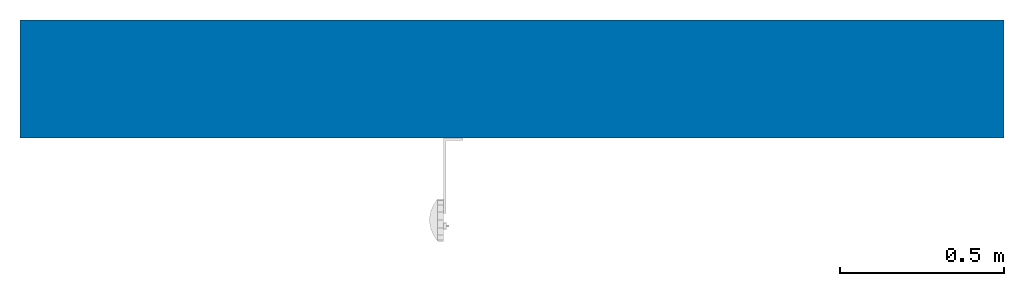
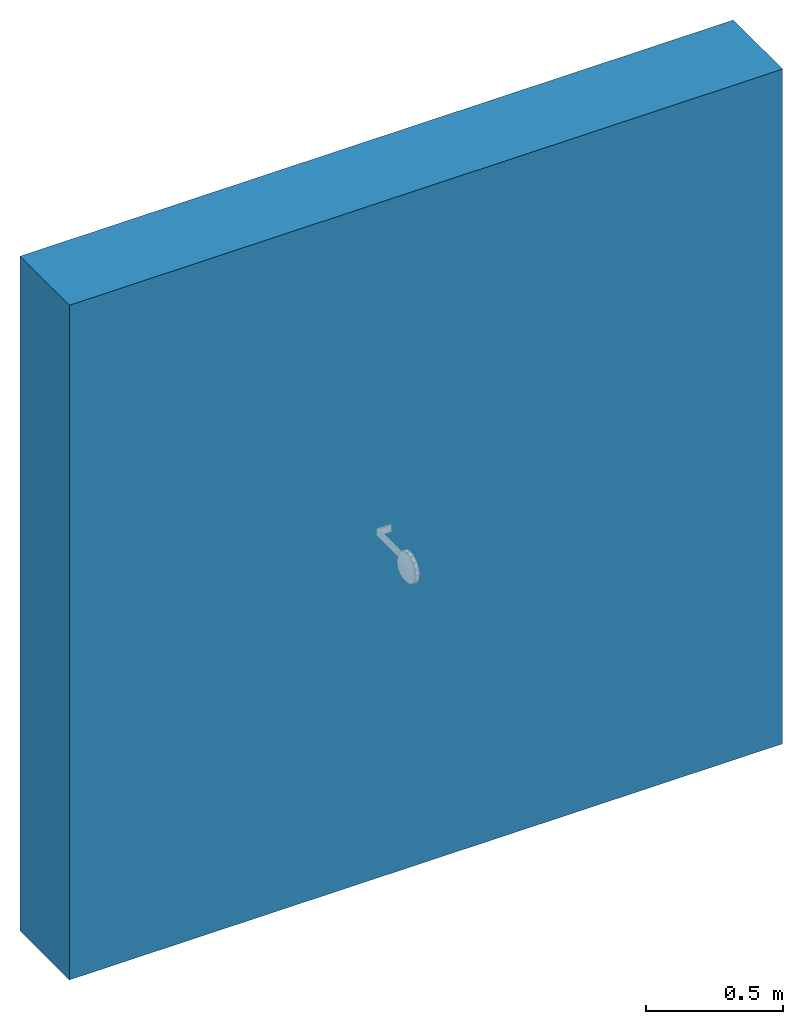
# One storey, incomplete: 1 wall.
"""IFC2X3 building model written with IfcOpenShell, lengths in metres."""

import ifcopenshell
import ifcopenshell.guid

model = None  # the IFC model being written
_history = None  # IfcOwnerHistory: only IFC2X3 demands one
_inside = {}  # id of a spatial element -> (the spatial element, [elements in it])
_under = {}  # id of a project, library or spatial element -> (it, [spatial elements below it])
_declared = {}  # id of a project -> (the project, [libraries it declares])
_typed = {}  # id of a type object -> (the type object, [elements of that type])
_made_of = {}  # id of a material, layer set ... -> (it, [elements and type objects made of it])


def new_model(schema):
    """Start an empty IFC model of exactly this schema.

    Asked for "IFC4X3", IfcOpenShell would pick the latest addendum, in which some entities
    have other attributes; the version numbers below select the first issue.
    IFC2X3 requires an IfcOwnerHistory on every rooted entity: one is made here for all.
    """
    global model, _history
    if schema == "IFC4X3":
        model = ifcopenshell.file(schema_version=(4, 3, 0, 0))
    else:
        model = ifcopenshell.file(schema=schema)
    _inside.clear()
    _under.clear()
    _declared.clear()
    _typed.clear()
    _made_of.clear()
    _history = None
    if model.schema == "IFC2X3":
        org = make("IfcOrganization", Name="unknown")
        user = make(
            "IfcPersonAndOrganization",
            ThePerson=make("IfcPerson", FamilyName="unknown"),
            TheOrganization=org,
        )
        app = make(
            "IfcApplication",
            ApplicationDeveloper=org,
            Version="unknown",
            ApplicationFullName="unknown",
            ApplicationIdentifier="unknown",
        )
        _history = make(
            "IfcOwnerHistory",
            OwningUser=user,
            OwningApplication=app,
            ChangeAction="ADDED",
            CreationDate=0,
        )
    return model


def make(cls, **values):
    """One entity of the class cls with the attributes given. An attribute that is None is left unset."""
    return model.create_entity(
        cls, **{name: value for name, value in values.items() if value is not None}
    )


def entity(cls, *values):
    """Any entity or typed value of the class cls, its attributes in the order of the schema. None: left unset."""
    e = model.create_entity(cls)
    for i, value in enumerate(values):
        if value is not None:
            e[i] = value
    return e


def rooted(cls, **values):
    """An entity with a GlobalId (a new one), such as an element, a storey or a relation."""
    return make(cls, GlobalId=ifcopenshell.guid.new(), OwnerHistory=_history, **values)


def si_unit(unit_type, name, prefix=None):
    """IfcSIUnit, for example si_unit("LENGTHUNIT", "METRE", prefix="MILLI")."""
    return make("IfcSIUnit", UnitType=unit_type, Prefix=prefix, Name=name)


def converted_unit(unit_type, name, factor, base, dimensions=None, offset=None):
    """IfcConversionBasedUnit, such as the inch: factor (a typed value) times the base unit."""
    return make(
        "IfcConversionBasedUnit"
        if offset is None
        else "IfcConversionBasedUnitWithOffset",
        ConversionOffset=offset,
        Dimensions=None
        if dimensions is None
        else entity("IfcDimensionalExponents", *dimensions),
        UnitType=unit_type,
        Name=name,
        ConversionFactor=make(
            "IfcMeasureWithUnit", ValueComponent=factor, UnitComponent=base
        ),
    )


def derived_unit(unit_type, elements):
    """IfcDerivedUnit: a product of units, each with its exponent."""
    return make(
        "IfcDerivedUnit",
        Elements=[
            make("IfcDerivedUnitElement", Unit=unit, Exponent=power)
            for unit, power in elements
        ],
        UnitType=unit_type,
    )


def assignment(units):
    """IfcUnitAssignment: the units of a project."""
    return None if units is None else make("IfcUnitAssignment", Units=units)


def point(xyz):
    """IfcCartesianPoint."""
    return None if xyz is None else make("IfcCartesianPoint", Coordinates=xyz)


def direction(xyz):
    """IfcDirection."""
    return None if xyz is None else make("IfcDirection", DirectionRatios=xyz)


def frame(location, z_axis=None, x_axis=None):
    """IfcAxis2Placement3D, a coordinate frame: its origin and axes. An axis left out is left unset."""
    return make(
        "IfcAxis2Placement3D",
        Location=point(location),
        Axis=direction(z_axis),
        RefDirection=direction(x_axis),
    )


def frame_2d(location, x_axis=None):
    """IfcAxis2Placement2D, a coordinate frame in the plane: its origin and x axis."""
    return make(
        "IfcAxis2Placement2D", Location=point(location), RefDirection=direction(x_axis)
    )


def origin():
    """The frame at (0, 0, 0) with its axes left unset."""
    return frame((0.0, 0.0, 0.0))


def place(relative_to, where):
    """IfcLocalPlacement: puts the frame where relative to a parent placement (None: the world)."""
    return make(
        "IfcLocalPlacement", PlacementRelTo=relative_to, RelativePlacement=where
    )


def context(
    kind, dimensions, precision=None, world=None, true_north=None, identifier=None
):
    """IfcGeometricRepresentationContext, for example the 3D "Model" context."""
    return make(
        "IfcGeometricRepresentationContext",
        ContextIdentifier=identifier,
        ContextType=kind,
        CoordinateSpaceDimension=dimensions,
        Precision=precision,
        WorldCoordinateSystem=world,
        TrueNorth=true_north,
    )


def subcontext(parent, identifier, kind, view, scale=None):
    """IfcGeometricRepresentationSubContext, for example "Body" below "Model"."""
    return make(
        "IfcGeometricRepresentationSubContext",
        ContextIdentifier=identifier,
        ContextType=kind,
        ParentContext=parent,
        TargetScale=scale,
        TargetView=view,
    )


def project(units=None, contexts=None):
    """IfcProject with its units and contexts."""
    return rooted(
        "IfcProject",
        Name="project",
        RepresentationContexts=contexts,
        UnitsInContext=assignment(units),
    )


def spatial(cls, under=None, at=None, **own):
    """A site, building, storey or space (cls), placed at a placement, below another one or the project."""
    s = rooted(cls, ObjectPlacement=at, **own)
    if under is not None:
        _under.setdefault(under.id(), (under, []))[1].append(s)
    return s


def profile(cls, at=None, kind="AREA", **sizes):
    """A parametric profile (cls). Its sizes go by their IFC names, for example OverallWidth=200.0."""
    return make(cls, ProfileType=kind, Position=at, **sizes)


def rectangle(**sizes):
    """IfcRectangleProfileDef."""
    return profile("IfcRectangleProfileDef", **sizes)


def extrude(swept, where, along, depth):
    """IfcExtrudedAreaSolid: the profile swept, set in the frame where, extruded along a direction by depth."""
    return make(
        "IfcExtrudedAreaSolid",
        SweptArea=swept,
        Position=where,
        ExtrudedDirection=direction(along),
        Depth=depth,
    )


def shape(context_of_items, identifier, shape_type, items):
    """IfcShapeRepresentation: the items that make up one representation, for example the "Body"."""
    return make(
        "IfcShapeRepresentation",
        ContextOfItems=context_of_items,
        RepresentationIdentifier=identifier,
        RepresentationType=shape_type,
        Items=items,
    )


def material(Name=None, Category=None):
    """IfcMaterial."""
    return make("IfcMaterial", Name=Name, Category=Category)


def layer(
    of_material, thickness, ventilated=None, Name=None, Category=None, Priority=None
):
    """IfcMaterialLayer: one layer of a wall or slab, of a material (None: an air gap)."""
    return make(
        "IfcMaterialLayer",
        Material=of_material,
        LayerThickness=thickness,
        IsVentilated=ventilated,
        Name=Name,
        Category=Category,
        Priority=Priority,
    )


def layer_set(layers, Name=None):
    """IfcMaterialLayerSet."""
    return make("IfcMaterialLayerSet", MaterialLayers=layers, LayerSetName=Name)


def layer_usage(for_layer_set, set_direction, sense, offset, extent=None):
    """IfcMaterialLayerSetUsage: how a layer set lies in its element."""
    return make(
        "IfcMaterialLayerSetUsage",
        ForLayerSet=for_layer_set,
        LayerSetDirection=set_direction,
        DirectionSense=sense,
        OffsetFromReferenceLine=offset,
        ReferenceExtent=extent,
    )


def made_of(thing, what):
    """Note that an element or type object is made of a material, layer set ...; save() writes the relation."""
    if what is not None:
        _made_of.setdefault(what.id(), (what, []))[1].append(thing)
    return thing


def type_object(cls, material=None, **own):
    """A type object (cls), such as IfcWallType, which elements share."""
    return made_of(rooted(cls, **own), material)


def element(
    cls,
    number,
    at=None,
    inside=None,
    cuts=None,
    type_object=None,
    material=None,
    context=None,
    identifier="Body",
    shape_type=None,
    held_by="IfcProductDefinitionShape",
    body=None,
    shapes=None,
    **own,
):
    """One element of the class cls, such as IfcWall. Its Tag is "e" and its number.

    at: its placement. inside: the storey or other place that contains it. cuts: it is an
    opening in that element (IfcRelVoidsElement). A single representation is given by context,
    identifier, shape_type and body (its items); several are given by shapes. held_by: the class
    of the entity that holds the representations. save() writes the other relations.
    """
    e = rooted(cls, Tag="e%d" % number, ObjectPlacement=at, **own)
    if body is not None:
        shapes = [shape(context, identifier, shape_type, body)]
    if shapes is not None:
        e.Representation = make(held_by, Representations=shapes)
    if inside is not None:
        _inside.setdefault(inside.id(), (inside, []))[1].append(e)
    if cuts is not None:
        rooted(
            "IfcRelVoidsElement", RelatingBuildingElement=cuts, RelatedOpeningElement=e
        )
    if type_object is not None:
        _typed.setdefault(type_object.id(), (type_object, []))[1].append(e)
    return made_of(e, material)


def aggregate(whole, parts):
    """IfcRelAggregates: a whole, such as a stair, and the parts it consists of."""
    return rooted("IfcRelAggregates", RelatingObject=whole, RelatedObjects=parts)


def save(model, path):
    """Write the relations noted so far, then the file.

    IfcRelAggregates (storeys below a building ...), IfcRelContainedInSpatialStructure (elements
    in a storey), IfcRelDefinesByType, IfcRelAssociatesMaterial and IfcRelDeclares: one each for
    every whole, place, type object, material and project.
    """
    for whole, parts in _under.values():
        aggregate(whole, parts)
    for where, things in _inside.values():
        rooted(
            "IfcRelContainedInSpatialStructure",
            RelatedElements=things,
            RelatingStructure=where,
        )
    for kind, things in _typed.values():
        rooted("IfcRelDefinesByType", RelatedObjects=things, RelatingType=kind)
    for what, things in _made_of.values():
        rooted("IfcRelAssociatesMaterial", RelatedObjects=things, RelatingMaterial=what)
    for by, libraries in _declared.values():
        rooted("IfcRelDeclares", RelatingContext=by, RelatedDefinitions=libraries)
    model.write(path)


model = new_model("IFC2X3")

# Units and contexts
model_context = context("Model", 3, precision=1e-05, world=origin(), true_north=direction((6.12303176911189e-17, 1.0)))
body_context = subcontext(model_context, "Body", "Model", "MODEL_VIEW")
ifc_project = project(units=[si_unit("LENGTHUNIT", "METRE"), si_unit("AREAUNIT", "SQUARE_METRE"), si_unit("VOLUMEUNIT", "CUBIC_METRE"), converted_unit("PLANEANGLEUNIT", "DEGREE", entity("IfcRatioMeasure", 0.0174532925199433), si_unit("PLANEANGLEUNIT", "RADIAN"), dimensions=[0, 0, 0, 0, 0, 0, 0]), si_unit("MASSUNIT", "GRAM", prefix="KILO"), si_unit("TIMEUNIT", "SECOND"), si_unit("FREQUENCYUNIT", "HERTZ"), si_unit("THERMODYNAMICTEMPERATUREUNIT", "DEGREE_CELSIUS"), derived_unit("THERMALTRANSMITTANCEUNIT", [(si_unit("MASSUNIT", "GRAM", prefix="KILO"), 1), (si_unit("THERMODYNAMICTEMPERATUREUNIT", "KELVIN"), -1), (si_unit("TIMEUNIT", "SECOND"), -3)]), derived_unit("VOLUMETRICFLOWRATEUNIT", [(si_unit("LENGTHUNIT", "METRE"), 3), (si_unit("TIMEUNIT", "SECOND"), -1)]), si_unit("ELECTRICCURRENTUNIT", "AMPERE"), si_unit("ELECTRICVOLTAGEUNIT", "VOLT"), si_unit("POWERUNIT", "WATT"), si_unit("FORCEUNIT", "NEWTON", prefix="KILO"), si_unit("ILLUMINANCEUNIT", "LUX"), si_unit("LUMINOUSFLUXUNIT", "LUMEN"), si_unit("LUMINOUSINTENSITYUNIT", "CANDELA"), derived_unit("USERDEFINED", [(si_unit("MASSUNIT", "GRAM", prefix="KILO"), -1), (si_unit("LENGTHUNIT", "METRE"), -2), (si_unit("TIMEUNIT", "SECOND"), 3), (si_unit("LUMINOUSFLUXUNIT", "LUMEN"), 1)]), derived_unit("LINEARVELOCITYUNIT", [(si_unit("LENGTHUNIT", "METRE"), 1), (si_unit("TIMEUNIT", "SECOND"), -1)]), si_unit("PRESSUREUNIT", "PASCAL"), derived_unit("USERDEFINED", [(si_unit("LENGTHUNIT", "METRE"), -2), (si_unit("MASSUNIT", "GRAM", prefix="KILO"), 1), (si_unit("TIMEUNIT", "SECOND"), -2)])], contexts=[model_context])

# Site, building, storey
site_placement = place(None, origin())
site = spatial("IfcSite", under=ifc_project, at=site_placement, Name="Default", CompositionType="ELEMENT")
building_placement = place(site_placement, origin())
building = spatial("IfcBuilding", under=site, at=building_placement, CompositionType="ELEMENT")
storey_placement = place(building_placement, origin())
storey = spatial("IfcBuildingStorey", under=building, at=storey_placement, Name="Ebene 0", CompositionType="ELEMENT", Elevation=0.0)

# Wall
ifc_material_1 = material(Name="Wärmedämmung - hart")
ifc_layer_1 = layer(ifc_material_1, 0.12)
ifc_material_2 = material(Name="Mauerwerk - Ziegel, verputzt")
ifc_layer_2 = layer(ifc_material_2, 0.24)
ifc_layer_set = layer_set([ifc_layer_1, ifc_layer_2], Name="Basiswand:MW 24.0 WD 12.0")
ifc_layer_usage = layer_usage(ifc_layer_set, "AXIS2", "NEGATIVE", 0.18)
wall_type = type_object("IfcWallType", Name="Basiswand:MW 24.0 WD 12.0", PredefinedType="STANDARD", material=ifc_layer_set)
wall_placement = place(storey_placement, frame((-3.42764883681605, 0.111490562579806, 0.0)))
element("IfcWallStandardCase", 1, at=wall_placement, inside=storey, type_object=wall_type, material=ifc_layer_usage, Name="Basiswand:MW 24.0 WD 12.0", ObjectType="Basiswand:MW 24.0 WD 12.0:3900", context=body_context, shape_type="SweptSolid", body=[
    extrude(rectangle(XDim=3.0, YDim=0.36, at=frame_2d((1.5, 0.0), x_axis=(-1.0, 0.0))), origin(), (0.0, 0.0, 1.0), 3.0),
])

save(model, "model.ifc")
